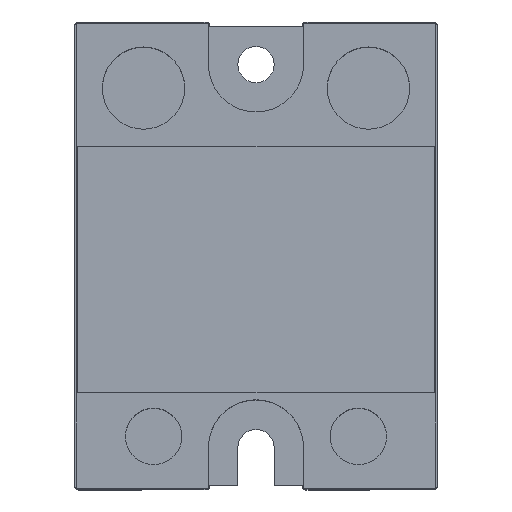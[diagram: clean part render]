
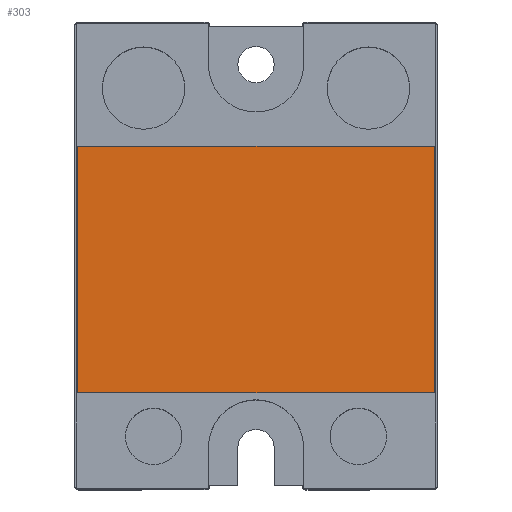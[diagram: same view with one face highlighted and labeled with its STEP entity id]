
A CAD part, top view. The second image highlights one B-rep face of the part: STEP entity #303.
In plain terms, the highlighted planar face has unit normal (0, 0, 1).
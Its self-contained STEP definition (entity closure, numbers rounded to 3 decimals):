
#137 = VECTOR ( 'NONE', #2142, 1000. ) ;
#217 = FACE_OUTER_BOUND ( 'NONE', #760, .T. ) ;
#272 = ORIENTED_EDGE ( 'NONE', *, *, #2044, .T. ) ;
#303 = ADVANCED_FACE ( 'NONE', ( #217 ), #2554, .T. ) ;
#476 = CARTESIAN_POINT ( 'NONE',  ( 79.5, 28.886, 24.8 ) ) ;
#632 = CARTESIAN_POINT ( 'NONE',  ( 44.6, 42.6, 24.8 ) ) ;
#641 = VERTEX_POINT ( 'NONE', #2834 ) ;
#724 = LINE ( 'NONE', #1807, #1403 ) ;
#760 = EDGE_LOOP ( 'NONE', ( #2592, #272, #2796, #3244 ) ) ;
#985 = CARTESIAN_POINT ( 'NONE',  ( 0.4, 42.6, 24.8 ) ) ;
#1006 = AXIS2_PLACEMENT_3D ( 'NONE', #476, #1242, #1291 ) ;
#1225 = LINE ( 'NONE', #2882, #1241 ) ;
#1241 = VECTOR ( 'NONE', #3130, 1000. ) ;
#1242 = DIRECTION ( 'NONE',  ( 0., 0., 1. ) ) ;
#1291 = DIRECTION ( 'NONE',  ( -1., 0., 0. ) ) ;
#1403 = VECTOR ( 'NONE', #2867, 1000. ) ;
#1435 = VERTEX_POINT ( 'NONE', #632 ) ;
#1634 = LINE ( 'NONE', #2696, #137 ) ;
#1807 = CARTESIAN_POINT ( 'NONE',  ( 0.4, 42.6, 24.8 ) ) ;
#1984 = LINE ( 'NONE', #3354, #2621 ) ;
#1998 = DIRECTION ( 'NONE',  ( 1., 0., 0. ) ) ;
#2044 = EDGE_CURVE ( 'NONE', #1435, #3358, #1225, .T. ) ;
#2134 = EDGE_CURVE ( 'NONE', #3358, #641, #724, .T. ) ;
#2142 = DIRECTION ( 'NONE',  ( 0., 1., 0. ) ) ;
#2209 = CARTESIAN_POINT ( 'NONE',  ( 44.6, 12., 24.8 ) ) ;
#2352 = EDGE_CURVE ( 'NONE', #641, #2758, #1984, .T. ) ;
#2554 = PLANE ( 'NONE',  #1006 ) ;
#2592 = ORIENTED_EDGE ( 'NONE', *, *, #2753, .T. ) ;
#2621 = VECTOR ( 'NONE', #1998, 1000. ) ;
#2696 = CARTESIAN_POINT ( 'NONE',  ( 44.6, 12., 24.8 ) ) ;
#2753 = EDGE_CURVE ( 'NONE', #2758, #1435, #1634, .T. ) ;
#2758 = VERTEX_POINT ( 'NONE', #2209 ) ;
#2796 = ORIENTED_EDGE ( 'NONE', *, *, #2134, .T. ) ;
#2834 = CARTESIAN_POINT ( 'NONE',  ( 0.4, 12., 24.8 ) ) ;
#2867 = DIRECTION ( 'NONE',  ( 0., -1., 0. ) ) ;
#2882 = CARTESIAN_POINT ( 'NONE',  ( 44.6, 42.6, 24.8 ) ) ;
#3130 = DIRECTION ( 'NONE',  ( -1., 0., 0. ) ) ;
#3244 = ORIENTED_EDGE ( 'NONE', *, *, #2352, .T. ) ;
#3354 = CARTESIAN_POINT ( 'NONE',  ( 0.4, 12., 24.8 ) ) ;
#3358 = VERTEX_POINT ( 'NONE', #985 ) ;
